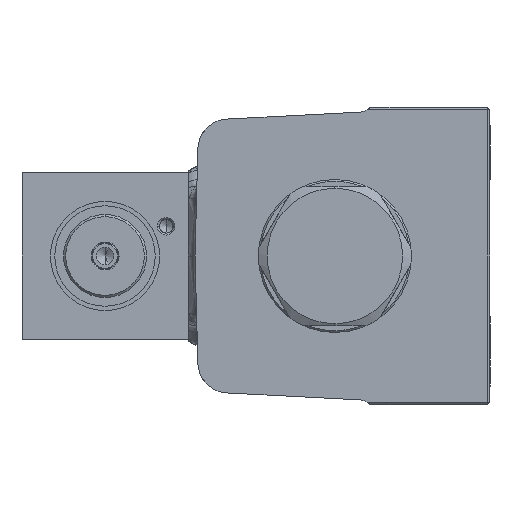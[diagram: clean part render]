
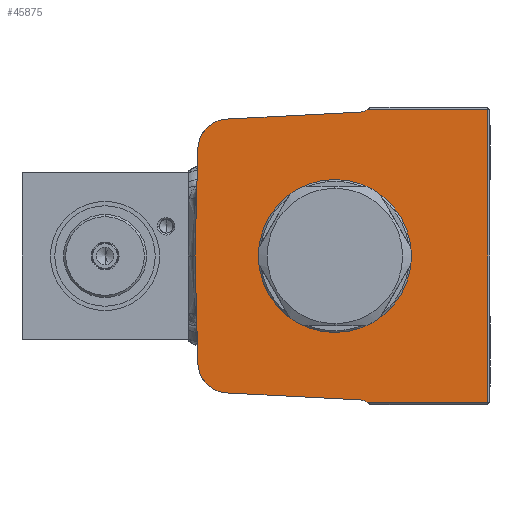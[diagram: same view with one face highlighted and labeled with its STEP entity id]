
A CAD part, left-side view. The second image highlights one B-rep face of the part: STEP entity #45875.
In plain terms, the highlighted planar face has unit normal (-1, 0, 0).
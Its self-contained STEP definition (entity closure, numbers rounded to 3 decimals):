
#734 = DIRECTION ( 'NONE',  ( 0., 0., 1. ) ) ;
#1039 = LINE ( 'NONE', #4122, #44316 ) ;
#1111 = CIRCLE ( 'NONE', #41214, 3. ) ;
#1338 = LINE ( 'NONE', #23930, #14573 ) ;
#4104 = CARTESIAN_POINT ( 'NONE',  ( -46.6, 0., 0. ) ) ;
#4122 = CARTESIAN_POINT ( 'NONE',  ( -46.6, 1.706, -32.544 ) ) ;
#5104 = DIRECTION ( 'NONE',  ( 0., 0., 1. ) ) ;
#5883 = CARTESIAN_POINT ( 'NONE',  ( -46.6, 1.706, 32.544 ) ) ;
#6281 = CARTESIAN_POINT ( 'NONE',  ( -46.6, 31.978, -0.837 ) ) ;
#6848 = ORIENTED_EDGE ( 'NONE', *, *, #20676, .F. ) ;
#7969 = DIRECTION ( 'NONE',  ( 1., 0., 0. ) ) ;
#8257 = ORIENTED_EDGE ( 'NONE', *, *, #43237, .T. ) ;
#9086 = VERTEX_POINT ( 'NONE', #53571 ) ;
#9750 = DIRECTION ( 'NONE',  ( 0., -1., 0. ) ) ;
#9885 = VERTEX_POINT ( 'NONE', #70641 ) ;
#9952 = ORIENTED_EDGE ( 'NONE', *, *, #19352, .F. ) ;
#11966 = DIRECTION ( 'NONE',  ( 0., -0.026, -1. ) ) ;
#12019 = EDGE_CURVE ( 'NONE', #52685, #23360, #1111, .T. ) ;
#12623 = VERTEX_POINT ( 'NONE', #40343 ) ;
#13455 = ORIENTED_EDGE ( 'NONE', *, *, #14921, .T. ) ;
#13786 = CIRCLE ( 'NONE', #52812, 16. ) ;
#13972 = DIRECTION ( 'NONE',  ( -1., 0., 0. ) ) ;
#14573 = VECTOR ( 'NONE', #63665, 1000. ) ;
#14800 = FACE_OUTER_BOUND ( 'NONE', #38754, .T. ) ;
#14911 = ORIENTED_EDGE ( 'NONE', *, *, #60922, .F. ) ;
#14921 = EDGE_CURVE ( 'NONE', #73498, #12623, #69021, .T. ) ;
#15018 = PLANE ( 'NONE',  #51674 ) ;
#15300 = VERTEX_POINT ( 'NONE', #26946 ) ;
#17883 = EDGE_CURVE ( 'NONE', #15300, #47805, #13786, .T. ) ;
#19352 = EDGE_CURVE ( 'NONE', #47805, #15300, #62129, .T. ) ;
#20444 = CARTESIAN_POINT ( 'NONE',  ( -46.6, -7.444, -33.5 ) ) ;
#20676 = EDGE_CURVE ( 'NONE', #70593, #12623, #61621, .T. ) ;
#20948 = DIRECTION ( 'NONE',  ( -1., 0., 0. ) ) ;
#21041 = CARTESIAN_POINT ( 'NONE',  ( -46.6, 32., 0. ) ) ;
#21108 = ORIENTED_EDGE ( 'NONE', *, *, #72209, .T. ) ;
#23133 = CARTESIAN_POINT ( 'NONE',  ( -46.6, -16., 0. ) ) ;
#23360 = VERTEX_POINT ( 'NONE', #34814 ) ;
#23729 = VECTOR ( 'NONE', #11966, 1000. ) ;
#23930 = CARTESIAN_POINT ( 'NONE',  ( -46.6, -35.5, 33.5 ) ) ;
#26946 = CARTESIAN_POINT ( 'NONE',  ( -46.6, 16., 0. ) ) ;
#27721 = AXIS2_PLACEMENT_3D ( 'NONE', #41788, #7969, #47497 ) ;
#29319 = EDGE_CURVE ( 'NONE', #70593, #9086, #1039, .T. ) ;
#30342 = ORIENTED_EDGE ( 'NONE', *, *, #17883, .F. ) ;
#30715 = DIRECTION ( 'NONE',  ( -1., 0., 0. ) ) ;
#31103 = AXIS2_PLACEMENT_3D ( 'NONE', #64749, #30715, #70460 ) ;
#31395 = DIRECTION ( 'NONE',  ( 0., -0.026, 1. ) ) ;
#32573 = ORIENTED_EDGE ( 'NONE', *, *, #47276, .F. ) ;
#33181 = CARTESIAN_POINT ( 'NONE',  ( -46.6, -7.444, 33.5 ) ) ;
#34364 = ORIENTED_EDGE ( 'NONE', *, *, #29319, .T. ) ;
#34516 = DIRECTION ( 'NONE',  ( 1., 0., 0. ) ) ;
#34814 = CARTESIAN_POINT ( 'NONE',  ( -46.6, -5.85, 32.94 ) ) ;
#35236 = CARTESIAN_POINT ( 'NONE',  ( -46.6, -35., -34. ) ) ;
#35562 = AXIS2_PLACEMENT_3D ( 'NONE', #73062, #38890, #5104 ) ;
#36984 = VERTEX_POINT ( 'NONE', #71022 ) ;
#38754 = EDGE_LOOP ( 'NONE', ( #8257, #50447, #21108, #49725, #47053, #32573, #56146, #14911, #13455, #6848, #34364 ) ) ;
#38890 = DIRECTION ( 'NONE',  ( 1., 0., 0. ) ) ;
#39043 = VECTOR ( 'NONE', #68338, 1000. ) ;
#40343 = CARTESIAN_POINT ( 'NONE',  ( -46.6, 31.358, -24.53 ) ) ;
#41214 = AXIS2_PLACEMENT_3D ( 'NONE', #68614, #34516, #734 ) ;
#41743 = EDGE_LOOP ( 'NONE', ( #9952, #30342 ) ) ;
#41788 = CARTESIAN_POINT ( 'NONE',  ( -46.6, -5.693, -35.936 ) ) ;
#42791 = VECTOR ( 'NONE', #52129, 1000. ) ;
#43237 = EDGE_CURVE ( 'NONE', #9086, #66829, #43496, .T. ) ;
#43496 = CIRCLE ( 'NONE', #27721, 3. ) ;
#43603 = DIRECTION ( 'NONE',  ( -1., 0., 0. ) ) ;
#43616 = DIRECTION ( 'NONE',  ( 0., -0.999, -0.052 ) ) ;
#43962 = CARTESIAN_POINT ( 'NONE',  ( -46.6, 24.726, 31.337 ) ) ;
#44316 = VECTOR ( 'NONE', #43616, 1000. ) ;
#44620 = LINE ( 'NONE', #35236, #42791 ) ;
#44814 = FACE_BOUND ( 'NONE', #41743, .T. ) ;
#45875 = ADVANCED_FACE ( 'NONE', ( #14800, #44814 ), #15018, .T. ) ;
#46123 = VECTOR ( 'NONE', #31395, 1000. ) ;
#46388 = LINE ( 'NONE', #55502, #59839 ) ;
#46483 = EDGE_CURVE ( 'NONE', #66829, #36984, #46388, .T. ) ;
#47053 = ORIENTED_EDGE ( 'NONE', *, *, #12019, .T. ) ;
#47276 = EDGE_CURVE ( 'NONE', #53263, #23360, #54178, .T. ) ;
#47497 = DIRECTION ( 'NONE',  ( 0., 0., 1. ) ) ;
#47795 = CARTESIAN_POINT ( 'NONE',  ( -46.6, 24.36, 24.347 ) ) ;
#47805 = VERTEX_POINT ( 'NONE', #23133 ) ;
#47893 = LINE ( 'NONE', #53929, #46123 ) ;
#49725 = ORIENTED_EDGE ( 'NONE', *, *, #72203, .T. ) ;
#50447 = ORIENTED_EDGE ( 'NONE', *, *, #46483, .T. ) ;
#51674 = AXIS2_PLACEMENT_3D ( 'NONE', #54845, #20948, #60670 ) ;
#51794 = VERTEX_POINT ( 'NONE', #53211 ) ;
#52129 = DIRECTION ( 'NONE',  ( 0., 0., 1. ) ) ;
#52685 = VERTEX_POINT ( 'NONE', #33181 ) ;
#52812 = AXIS2_PLACEMENT_3D ( 'NONE', #4104, #43603, #9750 ) ;
#53211 = CARTESIAN_POINT ( 'NONE',  ( -46.6, -35., 33.5 ) ) ;
#53263 = VERTEX_POINT ( 'NONE', #43962 ) ;
#53541 = DIRECTION ( 'NONE',  ( 0., 0., 1. ) ) ;
#53571 = CARTESIAN_POINT ( 'NONE',  ( -46.6, -5.85, -32.94 ) ) ;
#53929 = CARTESIAN_POINT ( 'NONE',  ( -46.6, 31.978, 0.837 ) ) ;
#54178 = LINE ( 'NONE', #5883, #39043 ) ;
#54845 = CARTESIAN_POINT ( 'NONE',  ( -46.6, -35.5, -34. ) ) ;
#55502 = CARTESIAN_POINT ( 'NONE',  ( -46.6, -35.5, -33.5 ) ) ;
#56146 = ORIENTED_EDGE ( 'NONE', *, *, #63712, .T. ) ;
#57933 = CARTESIAN_POINT ( 'NONE',  ( -46.6, 24.726, -31.337 ) ) ;
#59839 = VECTOR ( 'NONE', #66988, 1000. ) ;
#60670 = DIRECTION ( 'NONE',  ( 0., 0., 1. ) ) ;
#60922 = EDGE_CURVE ( 'NONE', #73498, #9885, #47893, .T. ) ;
#61621 = CIRCLE ( 'NONE', #35562, 7. ) ;
#62129 = CIRCLE ( 'NONE', #31103, 16. ) ;
#63665 = DIRECTION ( 'NONE',  ( 0., 1., 0. ) ) ;
#63712 = EDGE_CURVE ( 'NONE', #53263, #9885, #70845, .T. ) ;
#64749 = CARTESIAN_POINT ( 'NONE',  ( -46.6, 0., 0. ) ) ;
#66829 = VERTEX_POINT ( 'NONE', #20444 ) ;
#66988 = DIRECTION ( 'NONE',  ( 0., -1., 0. ) ) ;
#68338 = DIRECTION ( 'NONE',  ( 0., -0.999, 0.052 ) ) ;
#68614 = CARTESIAN_POINT ( 'NONE',  ( -46.6, -5.693, 35.936 ) ) ;
#68824 = AXIS2_PLACEMENT_3D ( 'NONE', #47795, #13972, #53541 ) ;
#69021 = LINE ( 'NONE', #6281, #23729 ) ;
#70460 = DIRECTION ( 'NONE',  ( 0., -1., 0. ) ) ;
#70593 = VERTEX_POINT ( 'NONE', #57933 ) ;
#70641 = CARTESIAN_POINT ( 'NONE',  ( -46.6, 31.358, 24.53 ) ) ;
#70845 = CIRCLE ( 'NONE', #68824, 7. ) ;
#71022 = CARTESIAN_POINT ( 'NONE',  ( -46.6, -35., -33.5 ) ) ;
#72203 = EDGE_CURVE ( 'NONE', #51794, #52685, #1338, .T. ) ;
#72209 = EDGE_CURVE ( 'NONE', #36984, #51794, #44620, .T. ) ;
#73062 = CARTESIAN_POINT ( 'NONE',  ( -46.6, 24.36, -24.347 ) ) ;
#73498 = VERTEX_POINT ( 'NONE', #21041 ) ;
